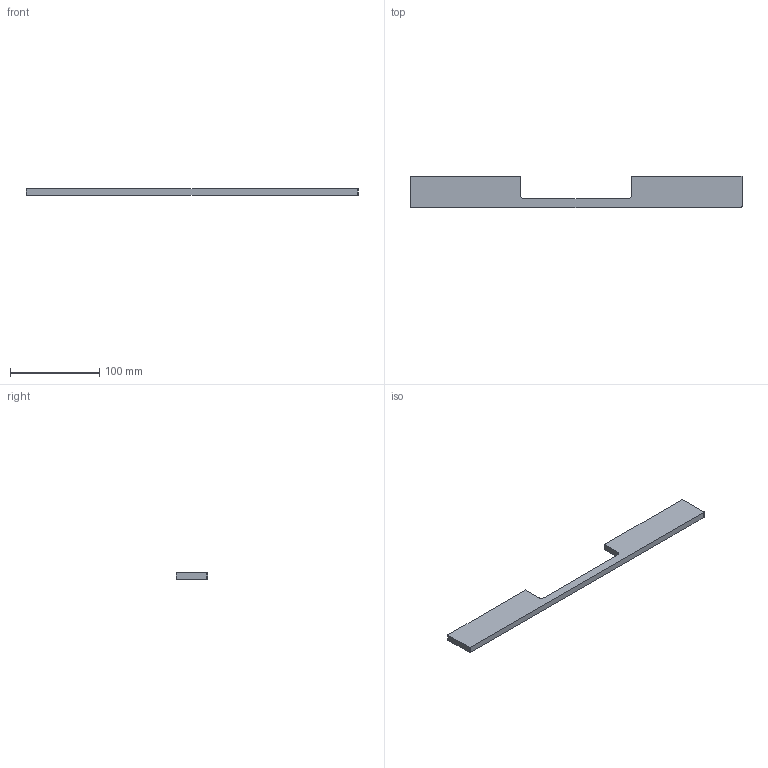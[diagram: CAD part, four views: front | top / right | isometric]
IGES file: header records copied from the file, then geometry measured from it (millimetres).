
Start section: Data from Parasolid IGES Translator 15.0.47, Copyright(c) 2006 Siemens P LM Software. All Rights Reserved.
Global section: file name: 115017.igs; native system:  By UGS Corp.; preprocessor: XPlus GENERIC/IGES 3.0; author: Noname; organization: Noname; date: 20140122.182509; units: millimetre
Bounding box: 372 x 35 x 7 mm (x, y, z)
Surface area: 26021.9 mm2 (no closed solid volume)
Topology: 0 solids, 0 shells, 18 faces, 84 edges, 82 vertices
Faces by surface type: extrusion 12, revolution 6
